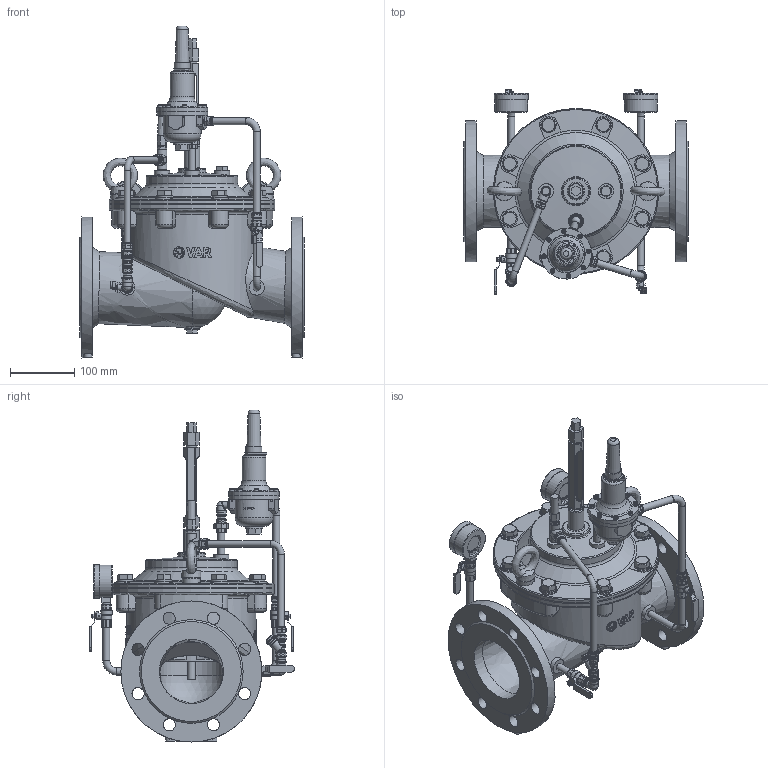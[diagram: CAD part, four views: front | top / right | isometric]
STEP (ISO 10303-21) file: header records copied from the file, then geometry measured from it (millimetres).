
FILE_DESCRIPTION(('STEP AP242'), '1');
FILE_NAME('PICO C200', '', ('UNSPECIFIED'), ('UNSPECIFIED'), 'C3D Converter', 'C3D Toolkit', '');
FILE_SCHEMA(('AP242_MANAGED_MODEL_BASED_3D_ENGINEERING_MIM_LF { 1 0 10303 442 1 1 4 }'));
Length unit declared in the file: millimetre
Products named in the file (26): М; ВР.752218.002
Assembly tree (61 placements, depth 3):
  (unnamed)
    (unnamed)
    (unnamed)
    (unnamed)
    (unnamed)
    (unnamed)
    (unnamed)
    (unnamed)
    М  x2
    (unnamed)
    (unnamed)  x4
    ВР.752218.002  x2
    (unnamed)  x6
    (unnamed)
    (unnamed)  x4
    (unnamed)
    (unnamed)
      (unnamed)
      (unnamed)
      (unnamed)  x8
      (unnamed)
    (unnamed)
    (unnamed)  x8
    (unnamed)  x8
    (unnamed)  x2
    (unnamed)  x2
Bounding box: 350 x 320 x 518 mm (x, y, z)
Volume: 4246862.1 mm3; surface area: 1220636.4 mm2
Topology: 67 solids, 69 shells, 2879 faces, 7285 edges, 4774 vertices
Faces by surface type: plane 1597, cylinder 622, cone 313, extrusion 139, torus 109, bspline 88, sphere 11
Full cylindrical faces by diameter (mm): 0.518 x2, 1.2 x1, 2.5 x2, 3 x8, 4 x25, 4.2 x4, 4.5 x4, 5 x2, 6 x8, 7 x8, 8 x5, 8.7 x1, 9 x16, 9.3 x6, 9.5 x2, 10 x4, 10.2 x4, 10.8 x2, 11 x18, 11.16 x4, 11.179 x6, 11.22 x4, 11.4 x2, 11.577 x2, 12 x12, 12.5 x3, 12.573 x15, 13.157 x2, 13.8 x4, 14 x38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
Entity records: 115563 total; most frequent: CARTESIAN_POINT 65504, ORIENTED_EDGE 8006, DIRECTION 7265, EDGE_CURVE 4003, VERTEX_POINT 2860, AXIS2_PLACEMENT_3D 2681, EDGE_LOOP 2415, FACE_BOUND 1919
